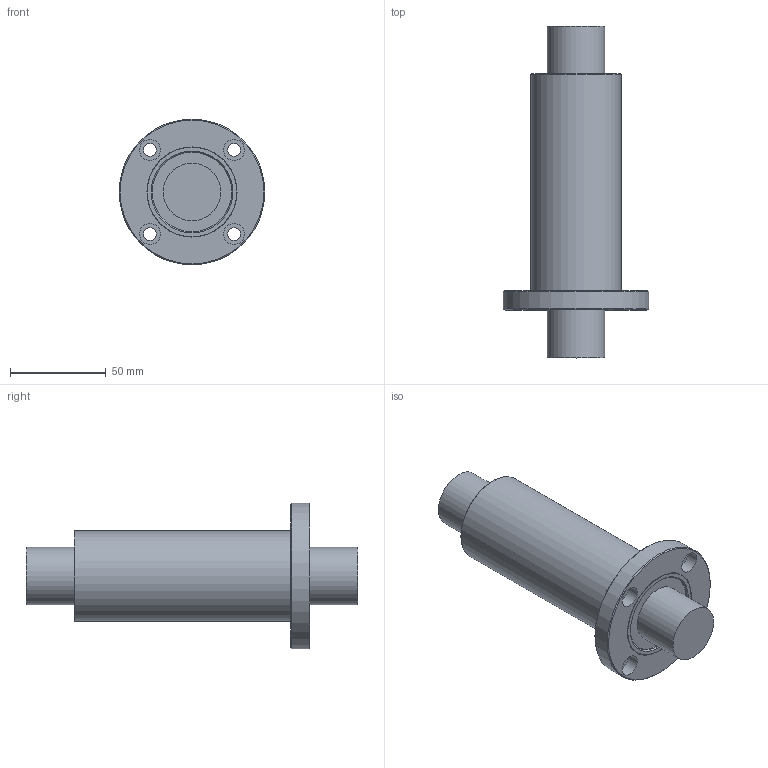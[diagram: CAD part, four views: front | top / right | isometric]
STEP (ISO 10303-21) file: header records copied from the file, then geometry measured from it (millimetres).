
FILE_DESCRIPTION((''),'2;1');
FILE_NAME('D:\STEP\EUROPE\BLANK\LMEF L\LMEF30L.stp','2013-02-05T17:59:03',('user2'),(''),'Autodesk Inventor 2012','Autodesk Inventor 2012','');
FILE_SCHEMA(('AUTOMOTIVE_DESIGN { 1 0 10303 214 1 1 1 1 }'));
Length unit declared in the file: millimetre
Products named in the file (1): LMEF30L
Bounding box: 76 x 173 x 76 mm (x, y, z)
Volume: 272035.1 mm3; surface area: 34158.9 mm2
Topology: 1 solids, 1 shells, 33 faces, 59 edges, 38 vertices
Faces by surface type: cylinder 15, plane 12, cone 4, torus 2
Full cylindrical faces by diameter (mm): 6.6 x4, 11 x4, 30 x2, 41.4 x2, 47 x2, 76 x1
Entity records: 736 total; most frequent: DIRECTION 140, CARTESIAN_POINT 106, ORIENTED_EDGE 72, EDGE_LOOP 72, AXIS2_PLACEMENT_3D 70, FACE_BOUND 39, VERTEX_POINT 36, CIRCLE 36
